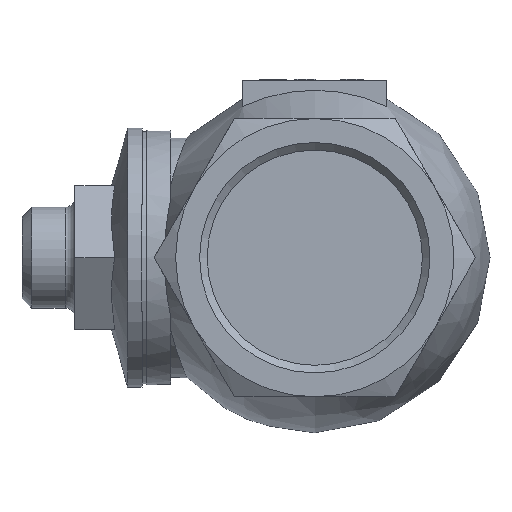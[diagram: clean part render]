
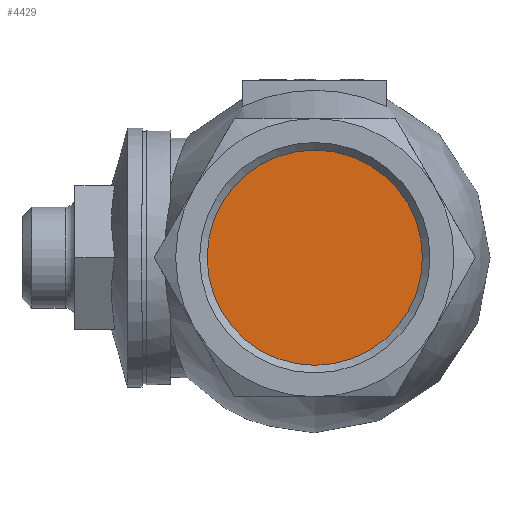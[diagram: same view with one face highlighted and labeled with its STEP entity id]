
A CAD part, left-side view. The second image highlights one B-rep face of the part: STEP entity #4429.
In plain terms, the highlighted planar face has unit normal (-1, 0, 0).
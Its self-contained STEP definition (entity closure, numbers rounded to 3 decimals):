
#197=CIRCLE('',#4725,22.423);
#198=CIRCLE('',#4726,22.423);
#1288=FACE_OUTER_BOUND('',#1558,.T.);
#1558=EDGE_LOOP('',(#3924,#3925));
#2101=VERTEX_POINT('',#7970);
#2102=VERTEX_POINT('',#7972);
#2733=EDGE_CURVE('',#2101,#2102,#197,.T.);
#2734=EDGE_CURVE('',#2102,#2101,#198,.T.);
#3924=ORIENTED_EDGE('',*,*,#2734,.F.);
#3925=ORIENTED_EDGE('',*,*,#2733,.F.);
#4167=PLANE('',#4727);
#4429=ADVANCED_FACE('',(#1288),#4167,.F.);
#4725=AXIS2_PLACEMENT_3D('',#7973,#5652,#5653);
#4726=AXIS2_PLACEMENT_3D('',#7974,#5654,#5655);
#4727=AXIS2_PLACEMENT_3D('',#7975,#5656,#5657);
#5652=DIRECTION('center_axis',(1.,0.,0.));
#5653=DIRECTION('ref_axis',(0.,0.,-1.));
#5654=DIRECTION('center_axis',(1.,0.,0.));
#5655=DIRECTION('ref_axis',(0.,0.,-1.));
#5656=DIRECTION('center_axis',(1.,0.,0.));
#5657=DIRECTION('ref_axis',(0.,0.,-1.));
#7970=CARTESIAN_POINT('',(-32.5,0.,22.423));
#7972=CARTESIAN_POINT('',(-32.5,0.,-22.423));
#7973=CARTESIAN_POINT('Origin',(-32.5,0.,0.));
#7974=CARTESIAN_POINT('Origin',(-32.5,0.,0.));
#7975=CARTESIAN_POINT('Origin',(-32.5,0.,0.));
